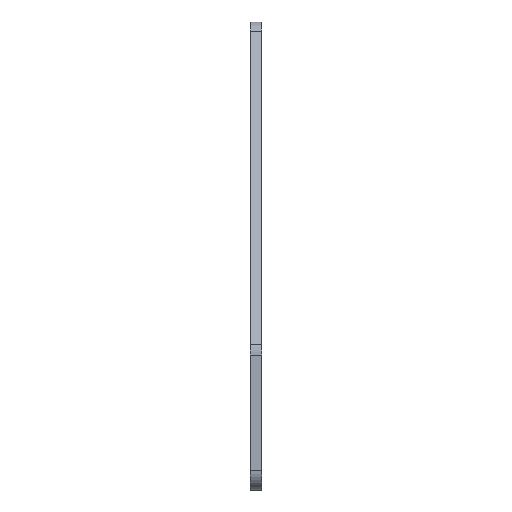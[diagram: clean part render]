
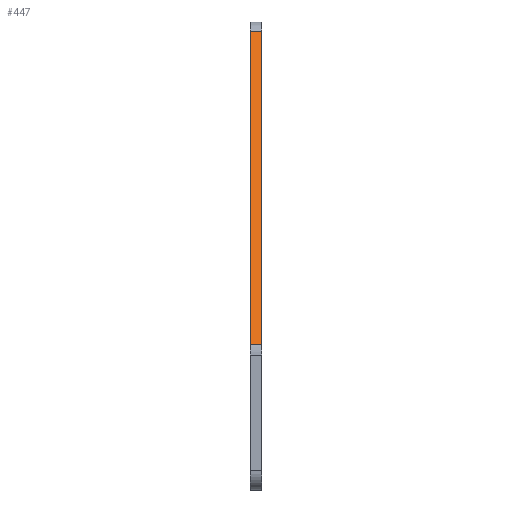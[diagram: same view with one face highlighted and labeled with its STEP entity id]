
A CAD part, left-side view. The second image highlights one B-rep face of the part: STEP entity #447.
In plain terms, the highlighted planar face has unit normal (-0.857, 0, 0.515).
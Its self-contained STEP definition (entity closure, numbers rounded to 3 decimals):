
#21 = DIRECTION ( 'NONE',  ( 0.857, 0., -0.515 ) ) ;
#25 = DIRECTION ( 'NONE',  ( -0.515, 0., -0.857 ) ) ;
#33 = ORIENTED_EDGE ( 'NONE', *, *, #539, .T. ) ;
#39 = DIRECTION ( 'NONE',  ( 0., -1., 0. ) ) ;
#46 = EDGE_CURVE ( 'NONE', #227, #787, #136, .T. ) ;
#67 = LINE ( 'NONE', #377, #587 ) ;
#78 = PLANE ( 'NONE',  #846 ) ;
#115 = ORIENTED_EDGE ( 'NONE', *, *, #789, .F. ) ;
#119 = VECTOR ( 'NONE', #346, 1000. ) ;
#136 = LINE ( 'NONE', #612, #119 ) ;
#179 = ORIENTED_EDGE ( 'NONE', *, *, #46, .T. ) ;
#196 = FACE_OUTER_BOUND ( 'NONE', #795, .T. ) ;
#227 = VERTEX_POINT ( 'NONE', #278 ) ;
#266 = CARTESIAN_POINT ( 'NONE',  ( -69.285, 3., -22.811 ) ) ;
#275 = CARTESIAN_POINT ( 'NONE',  ( -40.818, 3., 24.54 ) ) ;
#278 = CARTESIAN_POINT ( 'NONE',  ( -20.957, 0., 57.576 ) ) ;
#302 = CARTESIAN_POINT ( 'NONE',  ( -20.957, 3., 57.576 ) ) ;
#346 = DIRECTION ( 'NONE',  ( 0., 1., 0. ) ) ;
#368 = CARTESIAN_POINT ( 'NONE',  ( -69.285, 237.269, -22.811 ) ) ;
#377 = CARTESIAN_POINT ( 'NONE',  ( -40.818, 0., 24.54 ) ) ;
#418 = VECTOR ( 'NONE', #39, 1000. ) ;
#447 = ADVANCED_FACE ( 'NONE', ( #196 ), #78, .F. ) ;
#485 = DIRECTION ( 'NONE',  ( -0.515, 0., -0.857 ) ) ;
#496 = VECTOR ( 'NONE', #25, 1000. ) ;
#498 = VERTEX_POINT ( 'NONE', #266 ) ;
#539 = EDGE_CURVE ( 'NONE', #787, #498, #693, .T. ) ;
#548 = VERTEX_POINT ( 'NONE', #753 ) ;
#562 = ORIENTED_EDGE ( 'NONE', *, *, #726, .T. ) ;
#587 = VECTOR ( 'NONE', #775, 1000. ) ;
#596 = LINE ( 'NONE', #368, #418 ) ;
#612 = CARTESIAN_POINT ( 'NONE',  ( -20.957, 237.269, 57.576 ) ) ;
#680 = CARTESIAN_POINT ( 'NONE',  ( -70., 237.269, -24. ) ) ;
#693 = LINE ( 'NONE', #275, #496 ) ;
#726 = EDGE_CURVE ( 'NONE', #498, #548, #596, .T. ) ;
#753 = CARTESIAN_POINT ( 'NONE',  ( -69.285, 0., -22.811 ) ) ;
#775 = DIRECTION ( 'NONE',  ( -0.515, 0., -0.857 ) ) ;
#787 = VERTEX_POINT ( 'NONE', #302 ) ;
#789 = EDGE_CURVE ( 'NONE', #227, #548, #67, .T. ) ;
#795 = EDGE_LOOP ( 'NONE', ( #33, #562, #115, #179 ) ) ;
#846 = AXIS2_PLACEMENT_3D ( 'NONE', #680, #21, #485 ) ;
